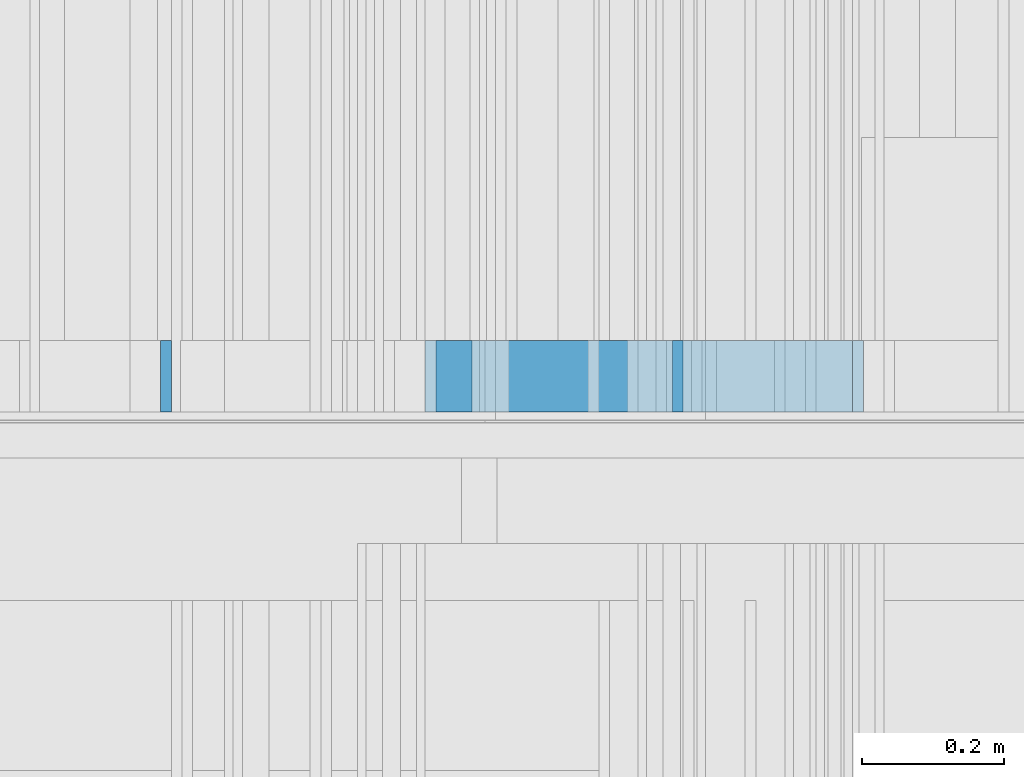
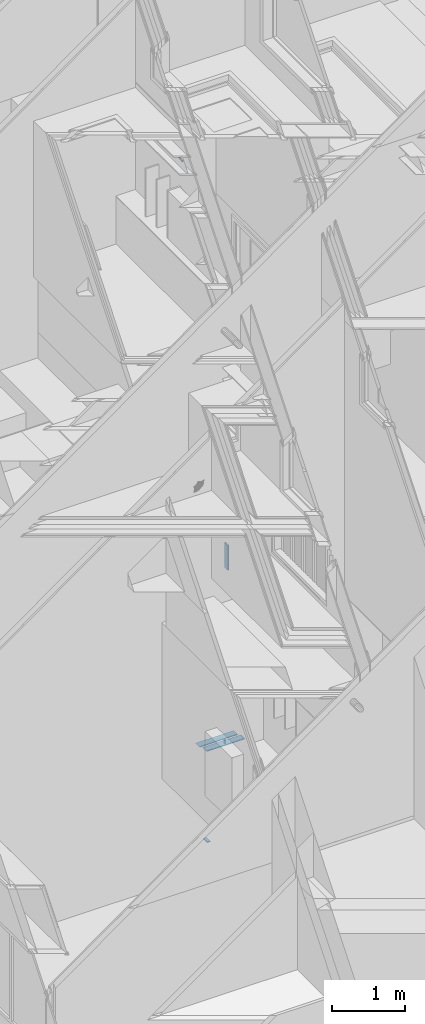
# One storey, part 215 of 583: 5 building element parts, 4 elements without a shape of their own.
"""IFC2X3 building model written with IfcOpenShell, lengths in metres."""

from ifc_helpers import new_model, entity, si_unit, converted_unit, derived_unit, money_unit, direction, frame, frame_2d, origin_with_axes, place, context, subcontext, project, spatial, polyline, rectangle, outline, extrude, material, type_object, element, aggregate, save


model = new_model("IFC2X3")

# Units and contexts
model_context = context("Model", 3, precision=1e-05, world=origin_with_axes(), true_north=direction((0.0, 1.0)))
body_context = subcontext(model_context, "Body", "Model", "MODEL_VIEW", scale=1.0)
ifc_project = project(units=[si_unit("LENGTHUNIT", "METRE"), si_unit("AREAUNIT", "SQUARE_METRE"), si_unit("VOLUMEUNIT", "CUBIC_METRE"), si_unit("ABSORBEDDOSEUNIT", "GRAY"), si_unit("AMOUNTOFSUBSTANCEUNIT", "MOLE"), si_unit("DOSEEQUIVALENTUNIT", "SIEVERT"), si_unit("ELECTRICCAPACITANCEUNIT", "FARAD"), si_unit("ELECTRICCHARGEUNIT", "COULOMB"), si_unit("ELECTRICCONDUCTANCEUNIT", "SIEMENS"), si_unit("ELECTRICCURRENTUNIT", "AMPERE"), si_unit("ELECTRICRESISTANCEUNIT", "OHM"), si_unit("ELECTRICVOLTAGEUNIT", "VOLT"), si_unit("ENERGYUNIT", "JOULE"), si_unit("FORCEUNIT", "NEWTON"), si_unit("FREQUENCYUNIT", "HERTZ"), si_unit("ILLUMINANCEUNIT", "LUX"), si_unit("INDUCTANCEUNIT", "HENRY"), si_unit("LUMINOUSFLUXUNIT", "LUMEN"), si_unit("LUMINOUSINTENSITYUNIT", "CANDELA"), si_unit("MAGNETICFLUXDENSITYUNIT", "TESLA"), si_unit("MAGNETICFLUXUNIT", "WEBER"), si_unit("MASSUNIT", "GRAM"), converted_unit("PLANEANGLEUNIT", "degree", entity("IfcReal", 0.0174532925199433), si_unit("PLANEANGLEUNIT", "RADIAN"), dimensions=[0, 0, 0, 0, 0, 0, 0]), si_unit("POWERUNIT", "WATT"), si_unit("PRESSUREUNIT", "PASCAL"), si_unit("RADIOACTIVITYUNIT", "BECQUEREL"), si_unit("SOLIDANGLEUNIT", "STERADIAN"), si_unit("THERMODYNAMICTEMPERATUREUNIT", "KELVIN"), si_unit("TIMEUNIT", "SECOND"), derived_unit("ACCELERATIONUNIT", [(si_unit("LENGTHUNIT", "METRE"), 1), (si_unit("TIMEUNIT", "SECOND"), -2)]), derived_unit("ANGULARVELOCITYUNIT", [(converted_unit("PLANEANGLEUNIT", "degree", entity("IfcReal", 0.0174532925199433), si_unit("PLANEANGLEUNIT", "RADIAN"), dimensions=[0, 0, 0, 0, 0, 0, 0]), 1), (si_unit("TIMEUNIT", "SECOND"), -1)]), derived_unit("CURVATUREUNIT", [(converted_unit("PLANEANGLEUNIT", "degree", entity("IfcReal", 0.0174532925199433), si_unit("PLANEANGLEUNIT", "RADIAN"), dimensions=[0, 0, 0, 0, 0, 0, 0]), 1), (si_unit("LENGTHUNIT", "METRE"), -1)]), derived_unit("DYNAMICVISCOSITYUNIT", [(si_unit("PRESSUREUNIT", "PASCAL"), 1), (si_unit("TIMEUNIT", "SECOND"), 1)]), derived_unit("HEATFLUXDENSITYUNIT", [(si_unit("POWERUNIT", "WATT"), 1), (si_unit("LENGTHUNIT", "METRE"), -2)]), derived_unit("HEATINGVALUEUNIT", [(si_unit("ENERGYUNIT", "JOULE"), 1), (si_unit("MASSUNIT", "GRAM"), -1)]), derived_unit("INTEGERCOUNTRATEUNIT", [(si_unit("TIMEUNIT", "SECOND"), -1)]), derived_unit("IONCONCENTRATIONUNIT", [(si_unit("MASSUNIT", "GRAM"), 1), (si_unit("VOLUMEUNIT", "CUBIC_METRE"), -1)]), derived_unit("ISOTHERMALMOISTURECAPACITYUNIT", [(si_unit("VOLUMEUNIT", "CUBIC_METRE"), 1), (si_unit("MASSUNIT", "GRAM"), -1)]), derived_unit("KINEMATICVISCOSITYUNIT", [(si_unit("AREAUNIT", "SQUARE_METRE"), 1), (si_unit("TIMEUNIT", "SECOND"), -1)]), derived_unit("LINEARFORCEUNIT", [(si_unit("FORCEUNIT", "NEWTON"), 1), (si_unit("LENGTHUNIT", "METRE"), -1)]), derived_unit("LINEARMOMENTUNIT", [(si_unit("FORCEUNIT", "NEWTON"), 1), (si_unit("LENGTHUNIT", "METRE"), -1)]), derived_unit("LINEARSTIFFNESSUNIT", [(si_unit("FORCEUNIT", "NEWTON"), 1), (si_unit("LENGTHUNIT", "METRE"), -1)]), derived_unit("LINEARVELOCITYUNIT", [(si_unit("LENGTHUNIT", "METRE"), 1), (si_unit("TIMEUNIT", "SECOND"), -1)]), derived_unit("LUMINOUSINTENSITYDISTRIBUTIONUNIT", [(si_unit("LUMINOUSINTENSITYUNIT", "CANDELA"), 1), (si_unit("LUMINOUSFLUXUNIT", "LUMEN"), -1)]), derived_unit("MASSDENSITYUNIT", [(si_unit("MASSUNIT", "GRAM"), 1), (si_unit("VOLUMEUNIT", "CUBIC_METRE"), -1)]), derived_unit("MASSFLOWRATEUNIT", [(si_unit("MASSUNIT", "GRAM"), 1), (si_unit("TIMEUNIT", "SECOND"), -1)]), derived_unit("MASSPERLENGTHUNIT", [(si_unit("MASSUNIT", "GRAM"), 1), (si_unit("LENGTHUNIT", "METRE"), -1)]), derived_unit("MODULUSOFELASTICITYUNIT", [(si_unit("FORCEUNIT", "NEWTON"), 1), (si_unit("AREAUNIT", "SQUARE_METRE"), -1)]), derived_unit("MODULUSOFLINEARSUBGRADEREACTIONUNIT", [(si_unit("FORCEUNIT", "NEWTON"), 1), (si_unit("LENGTHUNIT", "METRE"), -2)]), derived_unit("MODULUSOFROTATIONALSUBGRADEREACTIONUNIT", [(si_unit("FORCEUNIT", "NEWTON"), 1), (si_unit("LENGTHUNIT", "METRE"), 1)]), derived_unit("MODULUSOFSUBGRADEREACTIONUNIT", [(si_unit("FORCEUNIT", "NEWTON"), 1), (si_unit("VOLUMEUNIT", "CUBIC_METRE"), -1)]), derived_unit("MOISTUREDIFFUSIVITYUNIT", [(si_unit("VOLUMEUNIT", "CUBIC_METRE"), 1), (si_unit("TIMEUNIT", "SECOND"), -1)]), derived_unit("MOLECULARWEIGHTUNIT", [(si_unit("MASSUNIT", "GRAM"), 1), (si_unit("AMOUNTOFSUBSTANCEUNIT", "MOLE"), -1)]), derived_unit("PLANARFORCEUNIT", [(si_unit("FORCEUNIT", "NEWTON"), 1), (si_unit("LENGTHUNIT", "METRE"), -2)]), derived_unit("ROTATIONALFREQUENCYUNIT", [(si_unit("TIMEUNIT", "SECOND"), -1)]), derived_unit("ROTATIONALMASSUNIT", [(si_unit("MASSUNIT", "GRAM"), 1), (si_unit("LENGTHUNIT", "METRE"), 2)]), derived_unit("ROTATIONALSTIFFNESSUNIT", [(si_unit("FORCEUNIT", "NEWTON"), 1), (si_unit("LENGTHUNIT", "METRE"), 1), (converted_unit("PLANEANGLEUNIT", "degree", entity("IfcReal", 0.0174532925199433), si_unit("PLANEANGLEUNIT", "RADIAN"), dimensions=[0, 0, 0, 0, 0, 0, 0]), -1)]), derived_unit("SECTIONAREAINTEGRALUNIT", [(si_unit("LENGTHUNIT", "METRE"), 5)]), derived_unit("SECTIONMODULUSUNIT", [(si_unit("LENGTHUNIT", "METRE"), 3)]), derived_unit("SHEARMODULUSUNIT", [(si_unit("FORCEUNIT", "NEWTON"), 1), (si_unit("AREAUNIT", "SQUARE_METRE"), -1)]), derived_unit("SOUNDPOWERUNIT", [(si_unit("ENERGYUNIT", "JOULE"), 1), (si_unit("TIMEUNIT", "SECOND"), -1)]), derived_unit("SPECIFICHEATCAPACITYUNIT", [(si_unit("FORCEUNIT", "NEWTON"), 1), (si_unit("MASSUNIT", "GRAM"), -1), (si_unit("THERMODYNAMICTEMPERATUREUNIT", "KELVIN"), -1)]), derived_unit("TEMPERATUREGRADIENTUNIT", [(si_unit("THERMODYNAMICTEMPERATUREUNIT", "KELVIN"), 1), (si_unit("LENGTHUNIT", "METRE"), -1)]), derived_unit("THERMALADMITTANCEUNIT", [(si_unit("POWERUNIT", "WATT"), 1), (si_unit("AREAUNIT", "SQUARE_METRE"), -1), (si_unit("THERMODYNAMICTEMPERATUREUNIT", "KELVIN"), -1)]), derived_unit("THERMALCONDUCTANCEUNIT", [(si_unit("POWERUNIT", "WATT"), 1), (si_unit("LENGTHUNIT", "METRE"), -1), (si_unit("THERMODYNAMICTEMPERATUREUNIT", "KELVIN"), -1)]), derived_unit("THERMALEXPANSIONCOEFFICIENTUNIT", [(si_unit("THERMODYNAMICTEMPERATUREUNIT", "KELVIN"), -1)]), derived_unit("THERMALRESISTANCEUNIT", [(si_unit("AREAUNIT", "SQUARE_METRE"), 1), (si_unit("POWERUNIT", "WATT"), -1)]), derived_unit("THERMALTRANSMITTANCEUNIT", [(si_unit("POWERUNIT", "WATT"), 1), (si_unit("AREAUNIT", "SQUARE_METRE"), -1), (si_unit("THERMODYNAMICTEMPERATUREUNIT", "KELVIN"), -1)]), derived_unit("TORQUEUNIT", [(si_unit("FORCEUNIT", "NEWTON"), 1), (si_unit("LENGTHUNIT", "METRE"), 1)]), derived_unit("VAPORPERMEABILITYUNIT", [(si_unit("MASSUNIT", "GRAM"), 1), (si_unit("TIMEUNIT", "SECOND"), -1)]), derived_unit("VOLUMETRICFLOWRATEUNIT", [(si_unit("VOLUMEUNIT", "CUBIC_METRE"), 1), (si_unit("TIMEUNIT", "SECOND"), -1)]), derived_unit("WARPINGCONSTANTUNIT", [(si_unit("LENGTHUNIT", "METRE"), 6)]), derived_unit("WARPINGMOMENTUNIT", [(si_unit("FORCEUNIT", "NEWTON"), 1), (si_unit("LENGTHUNIT", "METRE"), 2)]), money_unit("GBP")], contexts=[model_context])

# Site, building, storey
site_placement = place(None, origin_with_axes())
site = spatial("IfcSite", under=ifc_project, at=site_placement, Name="Site", CompositionType="ELEMENT")
building_placement = place(site_placement, origin_with_axes())
building = spatial("IfcBuilding", under=site, at=building_placement, Name="Building01", CompositionType="ELEMENT")
storey_placement = place(building_placement, frame((0.0, 0.0, 20.78), z_axis=(0.0, 0.0, 1.0), x_axis=(1.0, 0.0, 0.0)))
storey = spatial("IfcBuildingStorey", under=building, at=storey_placement, Name="RL", CompositionType="ELEMENT", Elevation=20.78)

# Wall, building element part
wall_type_1 = type_object("IfcWallType", Name="SHE_A-Walls_Type05a_Partition_95mm_tall", PredefinedType="NOTDEFINED")
wall_1_placement = place(storey_placement, frame((6.571475, 12.13, -16.57427), z_axis=(0.0, 1.0, 0.0), x_axis=(1.0, 0.0, 0.0)))
wall_1 = element("IfcWall", 1, at=wall_1_placement, inside=storey, type_object=wall_type_1, Name="5A", ObjectType="SHE_A-Walls_Type05a_Partition_95mm_tall")
ifc_material = material(Name="A_BSUK_Walls_Timber")
building_element_part_1_placement = place(wall_1_placement, origin_with_axes())
building_element_part_1 = element("IfcBuildingElementPart", 2, at=building_element_part_1_placement, material=ifc_material, Name="3", context=body_context, shape_type="SweptSolid", body=[
    extrude(rectangle(XDim=0.015, YDim=0.050695, at=frame_2d((0.075347, -0.0425), x_axis=(0.0, -1.0))), frame((0.0, 0.0, 0.015), z_axis=(0.0, 0.0, 1.0), x_axis=(1.0, 0.0, 0.0)), (0.0, 0.0, 1.0), 0.1),
])
aggregate(wall_1, [building_element_part_1])

wall_type_2 = type_object("IfcWallType", Name="SHE_A-Walls_Type04a_BlockworkWall_130mm", PredefinedType="NOTDEFINED")
wall_2_placement = place(storey_placement, frame((8.665, 12.13, -5.065), z_axis=(0.0, 1.0, 0.0), x_axis=(-1.0, 0.0, 0.0)))
wall_2 = element("IfcWall", 3, at=wall_2_placement, inside=storey, type_object=wall_type_2, Name="4A", ObjectType="SHE_A-Walls_Type04a_BlockworkWall_130mm")
building_element_part_2_placement = place(wall_2_placement, origin_with_axes())
building_element_part_2 = element("IfcBuildingElementPart", 4, at=building_element_part_2_placement, material=ifc_material, Name="5", context=body_context, shape_type="SweptSolid", body=[
    extrude(rectangle(XDim=0.015, YDim=0.015, at=frame_2d((2.4225, -0.0225), x_axis=(0.0, -1.0))), frame((0.0, 0.0, 0.015), z_axis=(0.0, 0.0, 1.0), x_axis=(1.0, 0.0, 0.0)), (0.0, 0.0, 1.0), 0.1),
])
aggregate(wall_2, [building_element_part_2])

wall_type_3 = type_object("IfcWallType", Name="SHE_A-Walls_Type04c_RiserWall_102mm_tall", PredefinedType="NOTDEFINED")
wall_3_placement = place(storey_placement, frame((6.968405, 12.145, -11.72), z_axis=(0.0, 1.0, 0.0), x_axis=(0.0, 0.0, -1.0)))
wall_3 = element("IfcWall", 5, at=wall_3_placement, inside=storey, type_object=wall_type_3, Name="4C", ObjectType="SHE_A-Walls_Type04c_RiserWall_102mm_tall")
building_element_part_3_placement = place(wall_3_placement, origin_with_axes())
building_element_part_3 = element("IfcBuildingElementPart", 6, at=building_element_part_3_placement, material=ifc_material, Name="1", context=body_context, shape_type="SweptSolid", body=[
    extrude(outline(polyline([(0.417, 0.015), (0.0, 0.015), (0.0, 0.0), (0.402, 0.0), (0.417, 0.015)])), origin_with_axes(), (0.0, 0.0, 1.0), 0.1),
])
aggregate(wall_3, [building_element_part_3])

# Wall, building element parts
wall_4_placement = place(storey_placement, frame((6.571475, 12.13, -14.975331), z_axis=(0.0, 1.0, 0.0), x_axis=(1.0, 0.0, 0.0)))
wall_4 = element("IfcWall", 7, at=wall_4_placement, inside=storey, type_object=wall_type_1, Name="5A", ObjectType="SHE_A-Walls_Type05a_Partition_95mm_tall")
placement = place(wall_4_placement, origin_with_axes())
building_element_part_4 = element("IfcBuildingElementPart", 8, at=placement, material=ifc_material, Name="2", context=body_context, shape_type="SweptSolid", body=[
    extrude(outline(polyline([(0.54, -0.06), (-0.06, -0.06), (-0.075, -0.075), (0.525, -0.075), (0.54, -0.06)])), frame((0.0, 0.0, 0.015), z_axis=(0.0, 0.0, 1.0), x_axis=(1.0, 0.0, 0.0)), (0.0, 0.0, 1.0), 0.1),
])
building_element_part_5 = element("IfcBuildingElementPart", 9, at=placement, material=ifc_material, Name="3", context=body_context, shape_type="SweptSolid", body=[
    extrude(outline(polyline([(0.65, 0.05), (0.05, 0.05), (0.035, 0.035), (0.635, 0.035), (0.65, 0.05)])), frame((0.0, 0.0, 0.015), z_axis=(0.0, 0.0, 1.0), x_axis=(1.0, 0.0, 0.0)), (0.0, 0.0, 1.0), 0.1),
])
aggregate(wall_4, [building_element_part_4, building_element_part_5])

save(model, "model.ifc")
